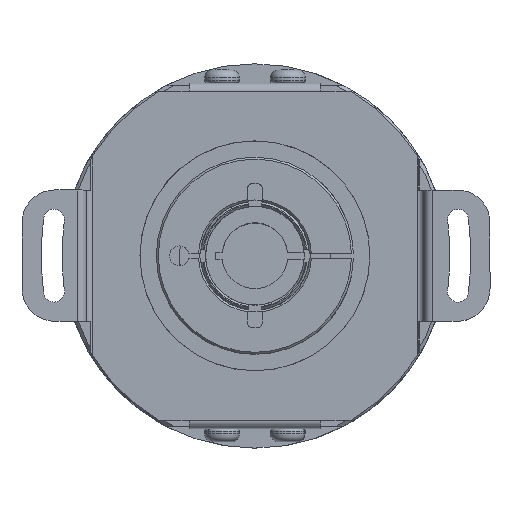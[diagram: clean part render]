
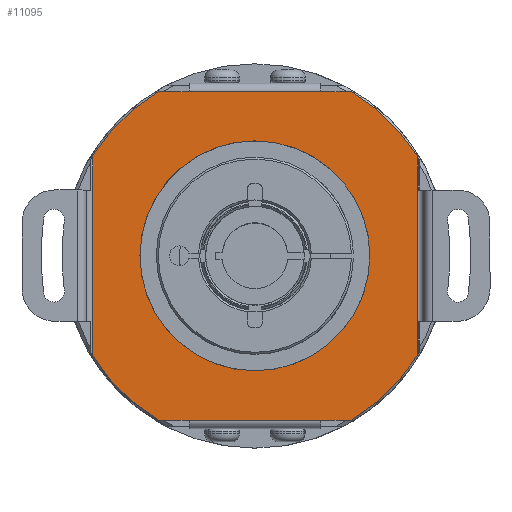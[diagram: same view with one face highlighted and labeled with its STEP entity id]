
A CAD part, top view. The second image highlights one B-rep face of the part: STEP entity #11095.
In plain terms, the highlighted planar face has unit normal (0, 0, 1).
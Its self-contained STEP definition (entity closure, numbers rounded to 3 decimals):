
#1 = VERTEX_POINT ( 'NONE', #12565 ) ;
#2 = ORIENTED_EDGE ( 'NONE', *, *, #11094, .F. ) ;
#3 = VERTEX_POINT ( 'NONE', #12564 ) ;
#4 = VERTEX_POINT ( 'NONE', #12563 ) ;
#5 = EDGE_LOOP ( 'NONE', ( #2, #10866, #16, #10, #4485, #15, #13, #7, #2747, #3057, #11379, #2749 ) ) ;
#6 = EDGE_CURVE ( 'NONE', #4484, #7454, #12627, .T. ) ;
#7 = ORIENTED_EDGE ( 'NONE', *, *, #9, .T. ) ;
#8 = VERTEX_POINT ( 'NONE', #12623 ) ;
#9 = EDGE_CURVE ( 'NONE', #17, #10771, #12622, .T. ) ;
#10 = ORIENTED_EDGE ( 'NONE', *, *, #6, .F. ) ;
#11 = EDGE_CURVE ( 'NONE', #4486, #17, #12617, .T. ) ;
#12 = EDGE_CURVE ( 'NONE', #7454, #3, #12613, .T. ) ;
#13 = ORIENTED_EDGE ( 'NONE', *, *, #11, .T. ) ;
#14 = EDGE_CURVE ( 'NONE', #4486, #8, #12609, .T. ) ;
#15 = ORIENTED_EDGE ( 'NONE', *, *, #14, .F. ) ;
#16 = ORIENTED_EDGE ( 'NONE', *, *, #12, .F. ) ;
#17 = VERTEX_POINT ( 'NONE', #12604 ) ;
#116 = DIRECTION ( 'NONE',  ( 0., 1., 0. ) ) ;
#117 = DIRECTION ( 'NONE',  ( 0., 0., 1. ) ) ;
#118 = CARTESIAN_POINT ( 'NONE',  ( 0., 0., 4.194 ) ) ;
#119 = AXIS2_PLACEMENT_3D ( 'NONE', #118, #117, #116 ) ;
#120 = CIRCLE ( 'NONE', #119, 17.5 ) ;
#121 = CARTESIAN_POINT ( 'NONE',  ( 0., -17.5, 4.194 ) ) ;
#148 = CARTESIAN_POINT ( 'NONE',  ( 10., 25., 4.194 ) ) ;
#192 = CARTESIAN_POINT ( 'NONE',  ( -14.697, -25., 4.194 ) ) ;
#357 = DIRECTION ( 'NONE',  ( 0., 1., 0. ) ) ;
#358 = DIRECTION ( 'NONE',  ( 0., 0., 1. ) ) ;
#359 = AXIS2_PLACEMENT_3D ( 'NONE', #365, #358, #357 ) ;
#360 = CIRCLE ( 'NONE', #359, 29. ) ;
#365 = CARTESIAN_POINT ( 'NONE',  ( 0., 0., 4.194 ) ) ;
#686 = LINE ( 'NONE', #743, #742 ) ;
#734 = DIRECTION ( 'NONE',  ( 0., 1., 0. ) ) ;
#735 = DIRECTION ( 'NONE',  ( 0., 0., 1. ) ) ;
#736 = CARTESIAN_POINT ( 'NONE',  ( 5., 35.2, 4.194 ) ) ;
#737 = AXIS2_PLACEMENT_3D ( 'NONE', #736, #735, #734 ) ;
#738 = PLANE ( 'NONE',  #737 ) ;
#739 = FACE_BOUND ( 'NONE', #12952, .T. ) ;
#740 = FACE_OUTER_BOUND ( 'NONE', #5, .T. ) ;
#741 = DIRECTION ( 'NONE',  ( 0., -1., 0. ) ) ;
#742 = VECTOR ( 'NONE', #741, 1000. ) ;
#743 = CARTESIAN_POINT ( 'NONE',  ( 24.7, 35.2, 4.194 ) ) ;
#1265 = DIRECTION ( 'NONE',  ( 1., 0., 0. ) ) ;
#1266 = VECTOR ( 'NONE', #1265, 1000. ) ;
#1267 = CARTESIAN_POINT ( 'NONE',  ( 5., -25., 4.194 ) ) ;
#1268 = LINE ( 'NONE', #1267, #1266 ) ;
#2439 = VERTEX_POINT ( 'NONE', #12641 ) ;
#2743 = EDGE_CURVE ( 'NONE', #2746, #10771, #12713, .T. ) ;
#2744 = ORIENTED_EDGE ( 'NONE', *, *, #2745, .F. ) ;
#2745 = EDGE_CURVE ( 'NONE', #2439, #7187, #12709, .T. ) ;
#2746 = VERTEX_POINT ( 'NONE', #12704 ) ;
#2747 = ORIENTED_EDGE ( 'NONE', *, *, #2743, .F. ) ;
#2748 = EDGE_CURVE ( 'NONE', #4, #2759, #12703, .T. ) ;
#2749 = ORIENTED_EDGE ( 'NONE', *, *, #2748, .F. ) ;
#2756 = ORIENTED_EDGE ( 'NONE', *, *, #7189, .F. ) ;
#2759 = VERTEX_POINT ( 'NONE', #12742 ) ;
#2764 = EDGE_CURVE ( 'NONE', #2759, #2765, #12739, .T. ) ;
#2765 = VERTEX_POINT ( 'NONE', #12731 ) ;
#3057 = ORIENTED_EDGE ( 'NONE', *, *, #11378, .T. ) ;
#4484 = VERTEX_POINT ( 'NONE', #14067 ) ;
#4485 = ORIENTED_EDGE ( 'NONE', *, *, #4487, .F. ) ;
#4486 = VERTEX_POINT ( 'NONE', #14066 ) ;
#4487 = EDGE_CURVE ( 'NONE', #8, #4484, #14065, .T. ) ;
#7187 = VERTEX_POINT ( 'NONE', #121 ) ;
#7189 = EDGE_CURVE ( 'NONE', #7187, #2439, #120, .T. ) ;
#7454 = VERTEX_POINT ( 'NONE', #148 ) ;
#10771 = VERTEX_POINT ( 'NONE', #192 ) ;
#10852 = EDGE_CURVE ( 'NONE', #1, #3, #360, .T. ) ;
#10866 = ORIENTED_EDGE ( 'NONE', *, *, #10852, .T. ) ;
#11094 = EDGE_CURVE ( 'NONE', #1, #4, #686, .T. ) ;
#11095 = ADVANCED_FACE ( 'NONE', ( #740, #739 ), #738, .T. ) ;
#11378 = EDGE_CURVE ( 'NONE', #2746, #2765, #1268, .T. ) ;
#11379 = ORIENTED_EDGE ( 'NONE', *, *, #2764, .F. ) ;
#12563 = CARTESIAN_POINT ( 'NONE',  ( 24.7, -15.196, 4.194 ) ) ;
#12564 = CARTESIAN_POINT ( 'NONE',  ( 14.697, 25., 4.194 ) ) ;
#12565 = CARTESIAN_POINT ( 'NONE',  ( 24.7, 15.196, 4.194 ) ) ;
#12604 = CARTESIAN_POINT ( 'NONE',  ( -24.7, -15.196, 4.194 ) ) ;
#12605 = DIRECTION ( 'NONE',  ( 0., 1., 0. ) ) ;
#12606 = DIRECTION ( 'NONE',  ( 0., 0., -1. ) ) ;
#12607 = CARTESIAN_POINT ( 'NONE',  ( 0., 0., 4.194 ) ) ;
#12608 = AXIS2_PLACEMENT_3D ( 'NONE', #12607, #12606, #12605 ) ;
#12609 = CIRCLE ( 'NONE', #12608, 29. ) ;
#12610 = DIRECTION ( 'NONE',  ( 1., 0., 0. ) ) ;
#12611 = VECTOR ( 'NONE', #12610, 1000. ) ;
#12612 = CARTESIAN_POINT ( 'NONE',  ( 25., 25., 4.194 ) ) ;
#12613 = LINE ( 'NONE', #12612, #12611 ) ;
#12614 = DIRECTION ( 'NONE',  ( 0., -1., 0. ) ) ;
#12615 = VECTOR ( 'NONE', #12614, 1000. ) ;
#12616 = CARTESIAN_POINT ( 'NONE',  ( -24.7, 35.2, 4.194 ) ) ;
#12617 = LINE ( 'NONE', #12616, #12615 ) ;
#12618 = DIRECTION ( 'NONE',  ( -1., 0., 0. ) ) ;
#12619 = DIRECTION ( 'NONE',  ( 0., 0., 1. ) ) ;
#12620 = CARTESIAN_POINT ( 'NONE',  ( 0., 0., 4.194 ) ) ;
#12621 = AXIS2_PLACEMENT_3D ( 'NONE', #12620, #12619, #12618 ) ;
#12622 = CIRCLE ( 'NONE', #12621, 29. ) ;
#12623 = CARTESIAN_POINT ( 'NONE',  ( -14.697, 25., 4.194 ) ) ;
#12624 = DIRECTION ( 'NONE',  ( 1., 0., 0. ) ) ;
#12625 = VECTOR ( 'NONE', #12624, 1000. ) ;
#12626 = CARTESIAN_POINT ( 'NONE',  ( 5., 25., 4.194 ) ) ;
#12627 = LINE ( 'NONE', #12626, #12625 ) ;
#12641 = CARTESIAN_POINT ( 'NONE',  ( 0., 17.5, 4.194 ) ) ;
#12699 = DIRECTION ( 'NONE',  ( 0., -1., 0. ) ) ;
#12700 = DIRECTION ( 'NONE',  ( 0., 0., -1. ) ) ;
#12701 = CARTESIAN_POINT ( 'NONE',  ( 0., 0., 4.194 ) ) ;
#12702 = AXIS2_PLACEMENT_3D ( 'NONE', #12701, #12700, #12699 ) ;
#12703 = CIRCLE ( 'NONE', #12702, 29. ) ;
#12704 = CARTESIAN_POINT ( 'NONE',  ( -10., -25., 4.194 ) ) ;
#12705 = DIRECTION ( 'NONE',  ( 0., 1., 0. ) ) ;
#12706 = DIRECTION ( 'NONE',  ( 0., 0., 1. ) ) ;
#12707 = CARTESIAN_POINT ( 'NONE',  ( 0., 0., 4.194 ) ) ;
#12708 = AXIS2_PLACEMENT_3D ( 'NONE', #12707, #12706, #12705 ) ;
#12709 = CIRCLE ( 'NONE', #12708, 17.5 ) ;
#12710 = DIRECTION ( 'NONE',  ( -1., 0., 0. ) ) ;
#12711 = VECTOR ( 'NONE', #12710, 1000. ) ;
#12712 = CARTESIAN_POINT ( 'NONE',  ( -25., -25., 4.194 ) ) ;
#12713 = LINE ( 'NONE', #12712, #12711 ) ;
#12731 = CARTESIAN_POINT ( 'NONE',  ( 10., -25., 4.194 ) ) ;
#12732 = DIRECTION ( 'NONE',  ( -1., 0., 0. ) ) ;
#12733 = VECTOR ( 'NONE', #12732, 1000. ) ;
#12734 = CARTESIAN_POINT ( 'NONE',  ( 10., -25., 4.194 ) ) ;
#12739 = LINE ( 'NONE', #12734, #12733 ) ;
#12742 = CARTESIAN_POINT ( 'NONE',  ( 14.697, -25., 4.194 ) ) ;
#12952 = EDGE_LOOP ( 'NONE', ( #2744, #2756 ) ) ;
#14062 = DIRECTION ( 'NONE',  ( 1., 0., 0. ) ) ;
#14063 = VECTOR ( 'NONE', #14062, 1000. ) ;
#14064 = CARTESIAN_POINT ( 'NONE',  ( -10., 25., 4.194 ) ) ;
#14065 = LINE ( 'NONE', #14064, #14063 ) ;
#14066 = CARTESIAN_POINT ( 'NONE',  ( -24.7, 15.196, 4.194 ) ) ;
#14067 = CARTESIAN_POINT ( 'NONE',  ( -10., 25., 4.194 ) ) ;
